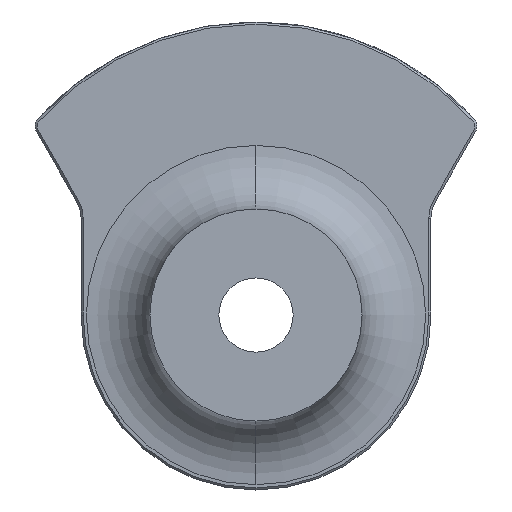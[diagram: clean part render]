
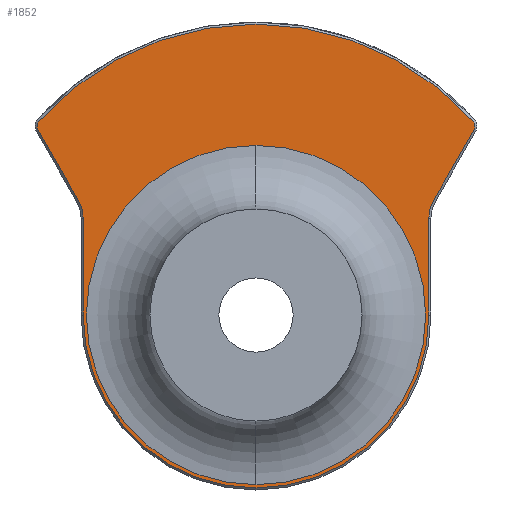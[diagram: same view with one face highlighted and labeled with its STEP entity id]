
A CAD part, left-side view. The second image highlights one B-rep face of the part: STEP entity #1852.
In plain terms, the highlighted planar face has unit normal (-1, 0, 0).
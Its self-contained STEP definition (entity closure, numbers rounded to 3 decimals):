
#34 = CARTESIAN_POINT ( 'NONE',  ( -3., 0., -8. ) ) ;
#38 = CARTESIAN_POINT ( 'NONE',  ( -3., -8.15, 4.571 ) ) ;
#39 = CARTESIAN_POINT ( 'NONE',  ( -3., 0., 8. ) ) ;
#60 = CARTESIAN_POINT ( 'NONE',  ( -3., 0., -8.15 ) ) ;
#72 = CARTESIAN_POINT ( 'NONE',  ( -3., 10.215, 9.155 ) ) ;
#81 = CARTESIAN_POINT ( 'NONE',  ( -3., 8.15, 4.571 ) ) ;
#82 = CARTESIAN_POINT ( 'NONE',  ( -3., -8.378, 5.421 ) ) ;
#84 = CARTESIAN_POINT ( 'NONE',  ( -3., 8.15, 0. ) ) ;
#90 = CARTESIAN_POINT ( 'NONE',  ( -3., 10.264, 8.688 ) ) ;
#93 = CARTESIAN_POINT ( 'NONE',  ( -3., 8.378, 5.421 ) ) ;
#107 = CARTESIAN_POINT ( 'NONE',  ( -3., -8.15, 0. ) ) ;
#123 = CARTESIAN_POINT ( 'NONE',  ( -3., -10.264, 8.688 ) ) ;
#124 = CARTESIAN_POINT ( 'NONE',  ( -3., -10.215, 9.155 ) ) ;
#166 = PLANE ( 'NONE',  #1404 ) ;
#167 = CARTESIAN_POINT ( 'NONE',  ( -3., 0., 0. ) ) ;
#168 = DIRECTION ( 'NONE',  ( -1., 0., 0. ) ) ;
#169 = DIRECTION ( 'NONE',  ( 0., 0., 1. ) ) ;
#170 = LINE ( 'NONE', #171, #1421 ) ;
#171 = CARTESIAN_POINT ( 'NONE',  ( -3., -8.15, 4.571 ) ) ;
#172 = DIRECTION ( 'NONE',  ( 0., 0., 1. ) ) ;
#211 = CARTESIAN_POINT ( 'NONE',  ( -3., 0., 0. ) ) ;
#212 = DIRECTION ( 'NONE',  ( -1., 0., 0. ) ) ;
#213 = DIRECTION ( 'NONE',  ( 0., 0., 1. ) ) ;
#229 = CARTESIAN_POINT ( 'NONE',  ( -3., 0., 0. ) ) ;
#230 = DIRECTION ( 'NONE',  ( -1., 0., 0. ) ) ;
#231 = DIRECTION ( 'NONE',  ( 0., 0., 1. ) ) ;
#276 = CARTESIAN_POINT ( 'NONE',  ( -3., 9.918, 8.888 ) ) ;
#277 = DIRECTION ( 'NONE',  ( -1., 0., 0. ) ) ;
#278 = DIRECTION ( 'NONE',  ( 0., 0., 1. ) ) ;
#366 = CARTESIAN_POINT ( 'NONE',  ( -3., 0., 0. ) ) ;
#370 = DIRECTION ( 'NONE',  ( 1., 0., 0. ) ) ;
#371 = DIRECTION ( 'NONE',  ( 0., 0., 1. ) ) ;
#375 = CARTESIAN_POINT ( 'NONE',  ( -3., -9.918, 8.888 ) ) ;
#376 = DIRECTION ( 'NONE',  ( -1., 0., 0. ) ) ;
#377 = DIRECTION ( 'NONE',  ( 0., 0., 1. ) ) ;
#432 = CARTESIAN_POINT ( 'NONE',  ( -3., 0., 0. ) ) ;
#433 = DIRECTION ( 'NONE',  ( 1., 0., 0. ) ) ;
#434 = DIRECTION ( 'NONE',  ( 0., 0., 1. ) ) ;
#435 = CARTESIAN_POINT ( 'NONE',  ( -3., 0., 0. ) ) ;
#442 = DIRECTION ( 'NONE',  ( -1., 0., 0. ) ) ;
#443 = DIRECTION ( 'NONE',  ( 0., 0., 1. ) ) ;
#453 = CARTESIAN_POINT ( 'NONE',  ( -3., 9.85, 4.571 ) ) ;
#457 = LINE ( 'NONE', #458, #1759 ) ;
#458 = CARTESIAN_POINT ( 'NONE',  ( -3., 8.15, 0. ) ) ;
#459 = DIRECTION ( 'NONE',  ( 0., 0., -1. ) ) ;
#469 = DIRECTION ( 'NONE',  ( 1., 0., 0. ) ) ;
#470 = DIRECTION ( 'NONE',  ( 0., 0., 1. ) ) ;
#471 = CARTESIAN_POINT ( 'NONE',  ( -3., -9.85, 4.571 ) ) ;
#472 = DIRECTION ( 'NONE',  ( 1., 0., 0. ) ) ;
#473 = DIRECTION ( 'NONE',  ( 0., 0., 1. ) ) ;
#481 = LINE ( 'NONE', #482, #1767 ) ;
#482 = CARTESIAN_POINT ( 'NONE',  ( -3., 8.378, 5.421 ) ) ;
#483 = DIRECTION ( 'NONE',  ( 0., -0.5, -0.866 ) ) ;
#484 = LINE ( 'NONE', #485, #1768 ) ;
#485 = CARTESIAN_POINT ( 'NONE',  ( -3., -10.264, 8.688 ) ) ;
#486 = DIRECTION ( 'NONE',  ( 0., -0.5, 0.866 ) ) ;
#703 = CIRCLE ( 'NONE', #1418, 8.15 ) ;
#705 = CIRCLE ( 'NONE', #831, 13.718 ) ;
#712 = CIRCLE ( 'NONE', #851, 0.4 ) ;
#726 = CIRCLE ( 'NONE', #742, 8. ) ;
#728 = CIRCLE ( 'NONE', #1833, 0.4 ) ;
#742 = AXIS2_PLACEMENT_3D ( 'NONE', #366, #370, #371 ) ;
#745 = CIRCLE ( 'NONE', #1750, 8. ) ;
#747 = CIRCLE ( 'NONE', #1752, 8.15 ) ;
#752 = CIRCLE ( 'NONE', #1762, 1.7 ) ;
#753 = CIRCLE ( 'NONE', #1754, 1.7 ) ;
#831 = AXIS2_PLACEMENT_3D ( 'NONE', #229, #230, #231 ) ;
#851 = AXIS2_PLACEMENT_3D ( 'NONE', #276, #277, #278 ) ;
#1391 = FACE_BOUND ( 'NONE', #1434, .T. ) ;
#1400 = FACE_OUTER_BOUND ( 'NONE', #1697, .T. ) ;
#1404 = AXIS2_PLACEMENT_3D ( 'NONE', #167, #168, #169 ) ;
#1418 = AXIS2_PLACEMENT_3D ( 'NONE', #211, #212, #213 ) ;
#1421 = VECTOR ( 'NONE', #172, 1000. ) ;
#1434 = EDGE_LOOP ( 'NONE', ( #1618, #1564 ) ) ;
#1439 = ORIENTED_EDGE ( 'NONE', *, *, #1950, .T. ) ;
#1448 = VERTEX_POINT ( 'NONE', #34 ) ;
#1456 = VERTEX_POINT ( 'NONE', #38 ) ;
#1461 = VERTEX_POINT ( 'NONE', #39 ) ;
#1479 = ORIENTED_EDGE ( 'NONE', *, *, #1887, .T. ) ;
#1517 = VERTEX_POINT ( 'NONE', #60 ) ;
#1538 = ORIENTED_EDGE ( 'NONE', *, *, #1946, .T. ) ;
#1546 = ORIENTED_EDGE ( 'NONE', *, *, #1941, .T. ) ;
#1553 = VERTEX_POINT ( 'NONE', #72 ) ;
#1558 = ORIENTED_EDGE ( 'NONE', *, *, #1954, .T. ) ;
#1560 = ORIENTED_EDGE ( 'NONE', *, *, #1951, .T. ) ;
#1564 = ORIENTED_EDGE ( 'NONE', *, *, #1917, .T. ) ;
#1578 = VERTEX_POINT ( 'NONE', #81 ) ;
#1579 = VERTEX_POINT ( 'NONE', #82 ) ;
#1583 = VERTEX_POINT ( 'NONE', #84 ) ;
#1595 = ORIENTED_EDGE ( 'NONE', *, *, #1871, .T. ) ;
#1604 = ORIENTED_EDGE ( 'NONE', *, *, #1955, .T. ) ;
#1605 = VERTEX_POINT ( 'NONE', #90 ) ;
#1611 = VERTEX_POINT ( 'NONE', #93 ) ;
#1618 = ORIENTED_EDGE ( 'NONE', *, *, #1938, .T. ) ;
#1653 = VERTEX_POINT ( 'NONE', #107 ) ;
#1679 = ORIENTED_EDGE ( 'NONE', *, *, #1853, .T. ) ;
#1682 = ORIENTED_EDGE ( 'NONE', *, *, #1866, .T. ) ;
#1684 = ORIENTED_EDGE ( 'NONE', *, *, #1919, .T. ) ;
#1694 = VERTEX_POINT ( 'NONE', #123 ) ;
#1695 = VERTEX_POINT ( 'NONE', #124 ) ;
#1697 = EDGE_LOOP ( 'NONE', ( #1684, #1595, #1479, #1558, #1439, #1538, #1682, #1546, #1679, #1560, #1604 ) ) ;
#1750 = AXIS2_PLACEMENT_3D ( 'NONE', #432, #433, #434 ) ;
#1752 = AXIS2_PLACEMENT_3D ( 'NONE', #435, #442, #443 ) ;
#1754 = AXIS2_PLACEMENT_3D ( 'NONE', #471, #472, #473 ) ;
#1759 = VECTOR ( 'NONE', #459, 1000. ) ;
#1762 = AXIS2_PLACEMENT_3D ( 'NONE', #453, #469, #470 ) ;
#1767 = VECTOR ( 'NONE', #483, 1000. ) ;
#1768 = VECTOR ( 'NONE', #486, 1000. ) ;
#1833 = AXIS2_PLACEMENT_3D ( 'NONE', #375, #376, #377 ) ;
#1852 = ADVANCED_FACE ( 'NONE', ( #1391, #1400 ), #166, .T. ) ;
#1853 = EDGE_CURVE ( 'NONE', #1653, #1456, #170, .T. ) ;
#1866 = EDGE_CURVE ( 'NONE', #1583, #1517, #703, .T. ) ;
#1871 = EDGE_CURVE ( 'NONE', #1695, #1553, #705, .T. ) ;
#1887 = EDGE_CURVE ( 'NONE', #1553, #1605, #712, .T. ) ;
#1917 = EDGE_CURVE ( 'NONE', #1448, #1461, #726, .T. ) ;
#1919 = EDGE_CURVE ( 'NONE', #1694, #1695, #728, .T. ) ;
#1938 = EDGE_CURVE ( 'NONE', #1461, #1448, #745, .T. ) ;
#1941 = EDGE_CURVE ( 'NONE', #1517, #1653, #747, .T. ) ;
#1946 = EDGE_CURVE ( 'NONE', #1578, #1583, #457, .T. ) ;
#1950 = EDGE_CURVE ( 'NONE', #1611, #1578, #752, .T. ) ;
#1951 = EDGE_CURVE ( 'NONE', #1456, #1579, #753, .T. ) ;
#1954 = EDGE_CURVE ( 'NONE', #1605, #1611, #481, .T. ) ;
#1955 = EDGE_CURVE ( 'NONE', #1579, #1694, #484, .T. ) ;
